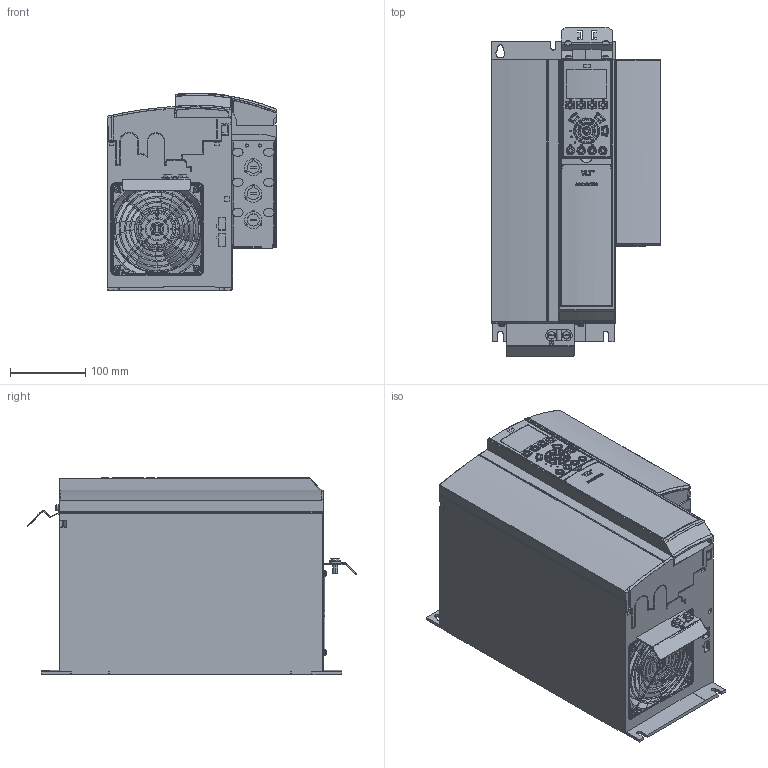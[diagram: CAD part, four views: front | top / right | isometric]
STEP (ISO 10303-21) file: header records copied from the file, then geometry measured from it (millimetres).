
FILE_DESCRIPTION((''),'2;1');
FILE_NAME('DANFOSS-FC300-B3-IP20-AC-111','2007-06-14T',('Naushad.pm'),('dan Drives A/S'),'PRO/ENGINEER BY PARAMETRIC TECHNOLOGY CORPORATION, 2006200','PRO/ENGINEER BY PARAMETRIC TECHNOLOGY CORPORATION, 2006200','');
FILE_SCHEMA(('CONFIG_CONTROL_DESIGN', 'GEOMETRIC_VALIDATION_PROPERTIES_MIM'));
Length unit declared in the file: millimetre
Products named in the file (1): DANFOSS-FC300-B3-IP20-AC-111
Bounding box: 225.68 x 437.49 x 262.5 mm (x, y, z)
Volume: 16827465 mm3; surface area: 660438.7 mm2
Topology: 2 solids, 19 shells, 4547 faces, 11391 edges, 6946 vertices
Faces by surface type: cylinder 1603, plane 1405, bspline 596, torus 494, sphere 189, extrusion 164, cone 95, revolution 1
Entity records: 223156 total; most frequent: CARTESIAN_POINT 69807, ORIENTED_EDGE 22754, DIRECTION 20012, PRESENTATION_STYLE_ASSIGNMENT 13171, STYLED_ITEM 11564, CURVE_STYLE 11385, EDGE_CURVE 11377, AXIS2_PLACEMENT_3D 7288
